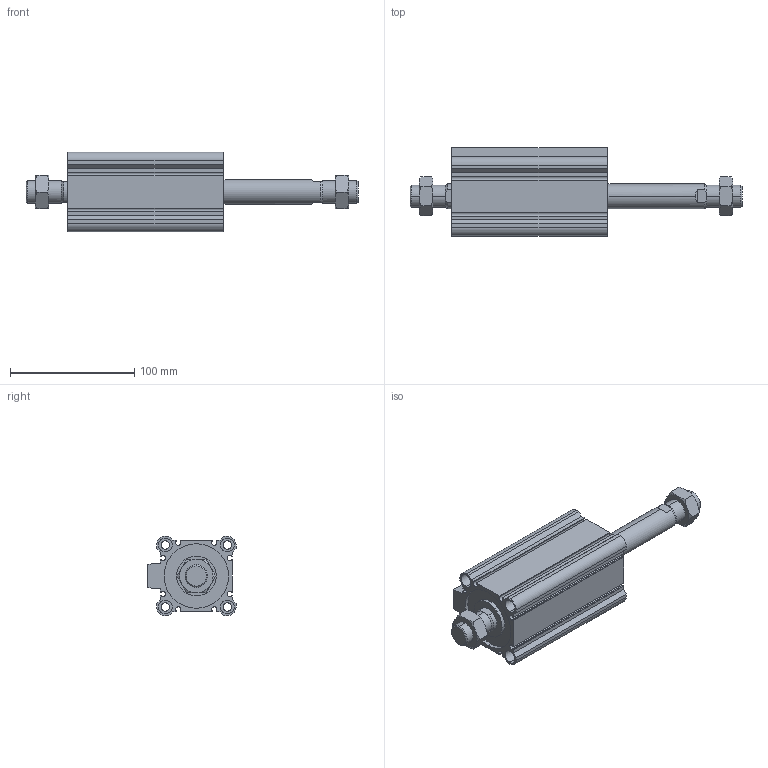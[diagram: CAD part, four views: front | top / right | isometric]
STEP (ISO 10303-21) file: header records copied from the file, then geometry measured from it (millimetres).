
FILE_DESCRIPTION (( 'STEP AP203' ), '1' );
FILE_NAME ('CCMB50-75M-P.STEP', '2020-08-10T11:47:48', ( '' ), ( '' ), 'SwSTEP 2.0', 'SolidWorks 2019', '' );
FILE_SCHEMA (( 'CONFIG_CONTROL_DESIGN' ));
Length unit declared in the file: millimetre
Products named in the file (1): CCMB50-75M-P
Bounding box: 267.5 x 71 x 64 mm (x, y, z)
Volume: 351997.7 mm3; surface area: 111226.1 mm2
Topology: 4 solids, 4 shells, 220 faces, 534 edges, 340 vertices
Faces by surface type: plane 98, cylinder 78, cone 44
Entity records: 7173 total; most frequent: CARTESIAN_POINT 1867, DIRECTION 1116, ORIENTED_EDGE 1068, EDGE_CURVE 534, AXIS2_PLACEMENT_3D 425, VERTEX_POINT 340, LINE 266, VECTOR 266
